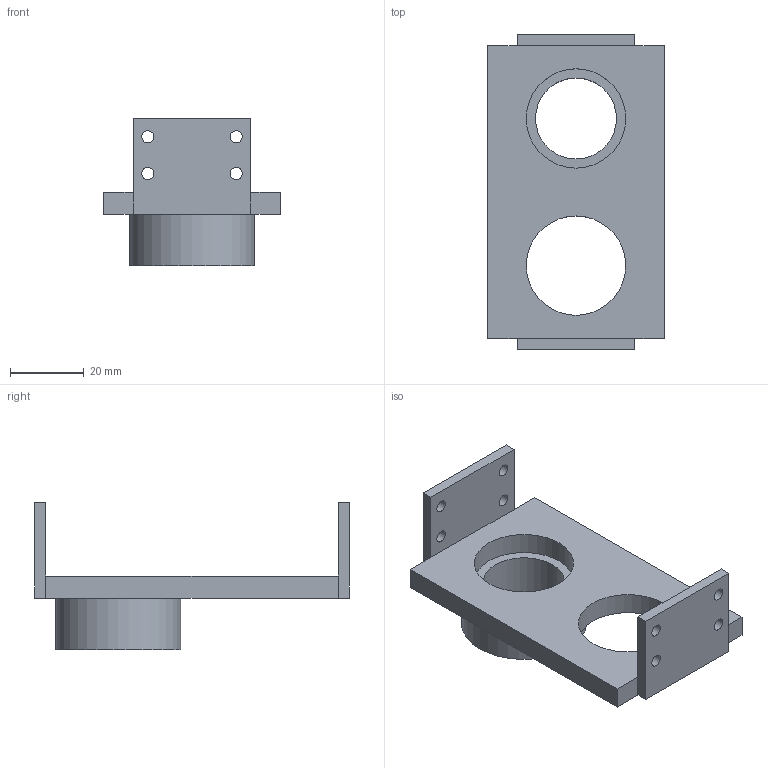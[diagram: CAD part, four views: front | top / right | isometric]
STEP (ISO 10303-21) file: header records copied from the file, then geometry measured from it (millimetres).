
FILE_DESCRIPTION(('Open CASCADE Model'),'2;1');
FILE_NAME('Open CASCADE Shape Model','2026-10-15T19:33:12',('Author'),( 'Open CASCADE'),'Open CASCADE STEP processor 7.9','Open CASCADE 7.9' ,'Unknown');
FILE_SCHEMA(('AUTOMOTIVE_DESIGN { 1 0 10303 214 1 1 1 1 }'));
Length unit declared in the file: millimetre
Products named in the file (1): Open CASCADE STEP translator 7.9 7
Bounding box: 48 x 85.6 x 40 mm (x, y, z)
Volume: 28231.8 mm3; surface area: 14116.1 mm2
Topology: 1 solids, 1 shells, 32 faces, 80 edges, 52 vertices
Faces by surface type: plane 20, cylinder 12
Full cylindrical faces by diameter (mm): 3.3 x8, 22 x1, 27 x2, 34 x1
Entity records: 2115 total; most frequent: CARTESIAN_POINT 463, DIRECTION 307, LINE 192, VECTOR 192, ORIENTED_EDGE 160, PCURVE 160, DEFINITIONAL_REPRESENTATION 160, EDGE_CURVE 80
